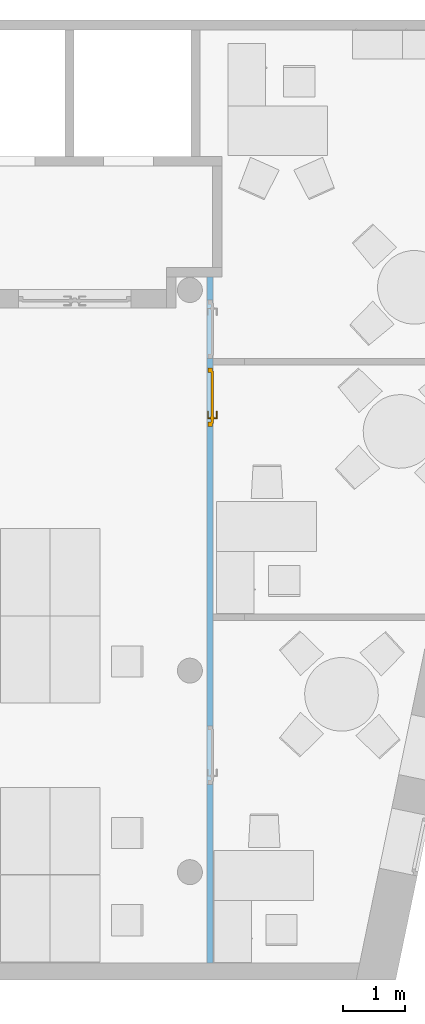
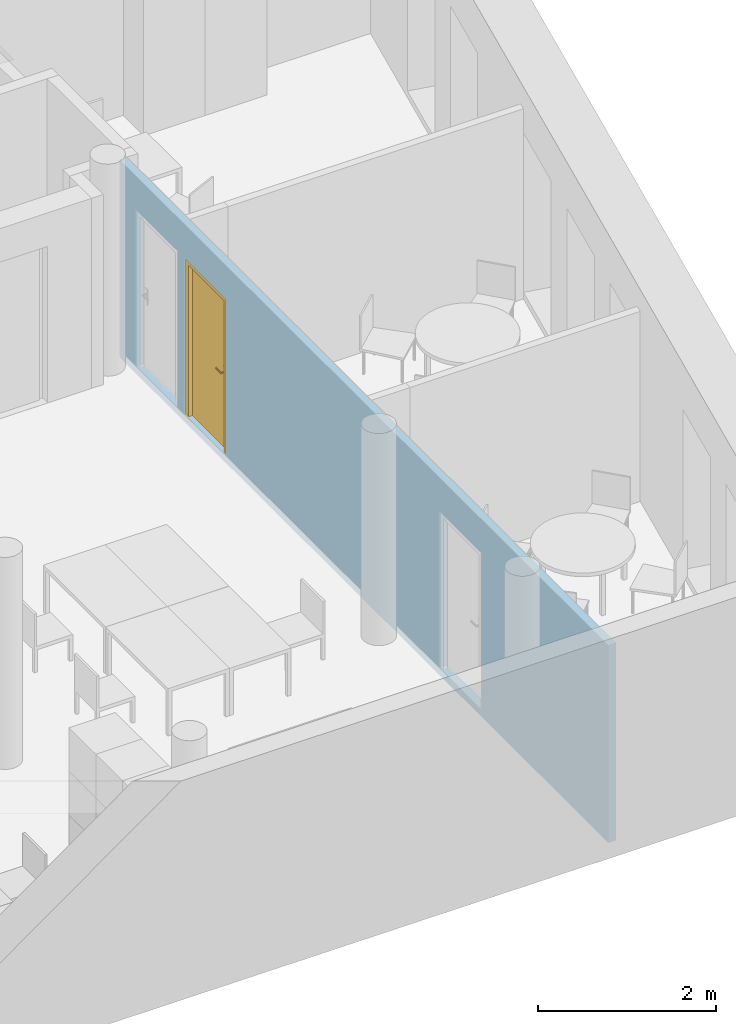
"""IFC4 building model written with IfcOpenShell, lengths in metres."""

from ifc_helpers import new_model, entity, si_unit, converted_unit, derived_unit, frame, frame_2d, origin, origin_with_axes, place, context, subcontext, project, spatial, polyline, rectangle, outline, extrude, faceted_brep, source, transform, mapped, material, layer, layer_set, layer_usage, element, fill, save


model = new_model("IFC4")

# Units and contexts
model_context = context("Model", 3, precision=1e-05, world=origin())
body_context = subcontext(model_context, "Body", "Model", "MODEL_VIEW")
ifc_project = project(units=[si_unit("LENGTHUNIT", "METRE"), si_unit("AREAUNIT", "SQUARE_METRE"), si_unit("VOLUMEUNIT", "CUBIC_METRE"), si_unit("MASSUNIT", "GRAM", prefix="KILO"), converted_unit("PLANEANGLEUNIT", "DEGREE", entity("IfcPlaneAngleMeasure", 0.0174532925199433), si_unit("PLANEANGLEUNIT", "RADIAN"), dimensions=[0, 0, 0, 0, 0, 0, 0]), derived_unit("THERMALTRANSMITTANCEUNIT", [(si_unit("POWERUNIT", "WATT"), 1), (si_unit("THERMODYNAMICTEMPERATUREUNIT", "KELVIN"), -1), (si_unit("LENGTHUNIT", "METRE"), -2)]), derived_unit("VOLUMETRICFLOWRATEUNIT", [(si_unit("LENGTHUNIT", "METRE"), 3), (converted_unit("TIMEUNIT", "hour", entity("IfcTimeMeasure", 3600.0), si_unit("TIMEUNIT", "SECOND"), dimensions=[0, 0, 1, 0, 0, 0, 0]), -1), (si_unit("LENGTHUNIT", "METRE"), -1)])], contexts=[model_context])

# Building, storeys
building_placement = place(None, origin())
building = spatial("IfcBuilding", under=ifc_project, at=building_placement, Name="HABITATGE PLURIFAMILIAR", CompositionType="ELEMENT")
storey_1_placement = place(building_placement, frame((0.0, 0.0, 12.27)))
storey_1 = spatial("IfcBuildingStorey", under=building, at=storey_1_placement, Name="PLANTA TERCERA", CompositionType="ELEMENT", Elevation=12.27)
storey_2_placement = place(storey_1_placement, frame((0.0, 0.0, 9.26)))
storey_2 = spatial("IfcBuildingStorey", under=storey_1, at=storey_2_placement, Name="NOU", CompositionType="PARTIAL")

# Wall, openings, door
ifc_material = material()
ifc_layer = layer(ifc_material, 0.1)
ifc_layer_set = layer_set([ifc_layer])
ifc_layer_usage = layer_usage(ifc_layer_set, "AXIS2", "POSITIVE", 0.0)
wall_placement = place(storey_2_placement, frame((421.265852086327, 24.1094598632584, -9.36), z_axis=(0.0, 0.0, 1.0), x_axis=(0.0, -1.0, 0.0)))
wall = element("IfcWall", 1, at=wall_placement, inside=storey_2, material=ifc_layer_usage, Name="Mampara P3", context=body_context, shape_type="SweptSolid", body=[
    extrude(rectangle(XDim=10.9988477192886, YDim=0.1, at=frame_2d((5.49942385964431, 0.05), x_axis=(1.0, 0.0))), origin_with_axes(), (0.0, 0.0, 1.0), 2.71),
])
opening_1_placement = place(wall_placement, frame((7.19486664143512, 0.0, 0.1), z_axis=(0.0, 1.0, 0.0), x_axis=(0.0, 0.0, 1.0)))
element("IfcOpeningElement", 2, at=opening_1_placement, cuts=wall, Name="Vano porta P3", ObjectType="Opening", context=body_context, shape_type="SweptSolid", body=[
    extrude(outline(polyline([(2.15, 0.939999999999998), (2.15, 0.0), (0.0, 0.0), (0.0, 0.939999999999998), (2.15, 0.939999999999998)])), origin_with_axes(), (0.0, 0.0, 1.0), 0.1),
])
opening_2_placement = place(wall_placement, frame((0.36871722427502, 0.0, 0.1), z_axis=(0.0, 1.0, 0.0), x_axis=(0.0, 0.0, 1.0)))
element("IfcOpeningElement", 3, at=opening_2_placement, cuts=wall, Name="Vano porta P3", ObjectType="Opening", context=body_context, shape_type="SweptSolid", body=[
    extrude(outline(polyline([(2.15, 0.94), (2.15, 0.0), (0.0, 0.0), (0.0, 0.94), (2.15, 0.94)])), origin_with_axes(), (0.0, 0.0, 1.0), 0.1),
])
opening_3_placement = place(wall_placement, frame((1.45871722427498, 0.0, 0.1), z_axis=(0.0, 1.0, 0.0), x_axis=(0.0, 0.0, 1.0)))
opening_3 = element("IfcOpeningElement", 4, at=opening_3_placement, cuts=wall, Name="Vano porta P3", ObjectType="Opening", context=body_context, shape_type="SweptSolid", body=[
    extrude(outline(polyline([(2.15, 0.94), (2.15, 0.0), (0.0, 0.0), (0.0, 0.94), (2.15, 0.94)])), origin_with_axes(), (0.0, 0.0, 1.0), 0.1),
])
shared_shape = source(origin_with_axes(), body_context, "Body", "Brep", [
    faceted_brep([(0.940000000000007, 0.0699999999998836, 2.15), (0.870000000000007, 0.0699999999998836, 2.15), (0.870000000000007, 0.0699999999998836, 0.0), (0.940000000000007, 0.0699999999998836, 0.0), (0.940000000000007, 0.0, 0.0), (0.870000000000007, 0.0, 0.0), (0.870000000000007, 0.0, 2.15), (0.940000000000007, 0.0, 2.15)], [[[0, 1, 2, 3]], [[4, 5, 6, 7]], [[3, 4, 7, 0]], [[2, 5, 4, 3]], [[1, 6, 5, 2]], [[0, 7, 6, 1]]], orient=[[False], [False], [False], [False], [False], [False]]),
    faceted_brep([(0.0700000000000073, 0.0699999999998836, 2.15), (0.0, 0.0699999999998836, 2.15), (0.0, 0.0699999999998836, 0.0), (0.0700000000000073, 0.0699999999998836, 0.0), (0.0700000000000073, 0.0, 0.0), (0.0, 0.0, 0.0), (0.0, 0.0, 2.15), (0.0700000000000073, 0.0, 2.15)], [[[0, 1, 2, 3]], [[4, 5, 6, 7]], [[3, 4, 7, 0]], [[2, 5, 4, 3]], [[1, 6, 5, 2]], [[0, 7, 6, 1]]], orient=[[False], [False], [False], [False], [False], [False]]),
    faceted_brep([(0.870000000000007, 0.0699999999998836, 2.15), (0.0700000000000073, 0.0699999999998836, 2.15), (0.0700000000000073, 0.0699999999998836, 2.08), (0.870000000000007, 0.0699999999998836, 2.08), (0.870000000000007, 0.0, 2.08), (0.0700000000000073, 0.0, 2.08), (0.0700000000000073, 0.0, 2.15), (0.870000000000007, 0.0, 2.15)], [[[0, 1, 2, 3]], [[4, 5, 6, 7]], [[3, 4, 7, 0]], [[2, 5, 4, 3]], [[1, 6, 5, 2]], [[0, 7, 6, 1]]], orient=[[False], [False], [False], [False], [False], [False]]),
    faceted_brep([(0.890000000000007, 0.0899999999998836, 2.1), (0.0500000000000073, 0.0899999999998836, 2.1), (0.0500000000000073, 0.0899999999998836, 0.0), (0.890000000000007, 0.0899999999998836, 0.0), (0.890000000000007, 0.0499999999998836, 0.0), (0.0500000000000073, 0.0499999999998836, 0.0), (0.0500000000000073, 0.0499999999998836, 2.1), (0.890000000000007, 0.0499999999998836, 2.1)], [[[0, 1, 2, 3]], [[4, 5, 6, 7]], [[3, 4, 7, 0]], [[2, 5, 4, 3]], [[1, 6, 5, 2]], [[0, 7, 6, 1]]], orient=[[False], [False], [False], [False], [False], [False]]),
    faceted_brep([(0.830000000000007, 0.0499999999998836, 1.125), (0.780000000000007, 0.0499999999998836, 1.125), (0.780000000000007, 0.0499999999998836, 0.91), (0.830000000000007, 0.0499999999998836, 0.91), (0.830000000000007, 0.0399999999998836, 0.91), (0.780000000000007, 0.0399999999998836, 0.91), (0.780000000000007, 0.0399999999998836, 1.125), (0.830000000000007, 0.0399999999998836, 1.125)], [[[0, 1, 2, 3]], [[4, 5, 6, 7]], [[3, 4, 7, 0]], [[2, 5, 4, 3]], [[1, 6, 5, 2]], [[0, 7, 6, 1]]], orient=[[False], [False], [False], [False], [False], [False]]),
    faceted_brep([(0.805000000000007, 0.0399999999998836, 1.06), (0.800000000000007, 0.0399999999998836, 1.05866025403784), (0.796339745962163, 0.0399999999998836, 1.055), (0.795000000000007, 0.0399999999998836, 1.05), (0.796339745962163, 0.0399999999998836, 1.045), (0.800000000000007, 0.0399999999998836, 1.04133974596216), (0.805000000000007, 0.0399999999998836, 1.04), (0.810000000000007, 0.0399999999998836, 1.04133974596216), (0.813660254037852, 0.0399999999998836, 1.045), (0.815000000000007, 0.0399999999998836, 1.05), (0.813660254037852, 0.0399999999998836, 1.055), (0.810000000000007, 0.0399999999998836, 1.05866025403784), (0.810000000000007, -0.00500000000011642, 1.05866025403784), (0.805000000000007, 0.0, 1.06), (0.813660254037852, -0.00866025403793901, 1.055), (0.815000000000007, -0.0100000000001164, 1.05), (0.813660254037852, -0.00866025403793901, 1.045), (0.810000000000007, -0.00500000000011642, 1.04133974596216), (0.805000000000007, 0.0, 1.04), (0.800000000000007, 0.00499999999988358, 1.04133974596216), (0.796339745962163, 0.00866025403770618, 1.045), (0.795000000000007, 0.00999999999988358, 1.05), (0.796339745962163, 0.00866025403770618, 1.055), (0.800000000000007, 0.00499999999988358, 1.05866025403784), (0.690000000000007, 0.0, 1.06), (0.690000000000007, -0.00500000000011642, 1.05866025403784), (0.690000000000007, -0.00866025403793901, 1.055), (0.690000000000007, -0.0100000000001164, 1.05), (0.690000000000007, -0.00866025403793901, 1.045), (0.690000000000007, -0.00500000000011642, 1.04133974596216), (0.690000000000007, 0.0, 1.04), (0.690000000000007, 0.00499999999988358, 1.04133974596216), (0.690000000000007, 0.00866025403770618, 1.045), (0.690000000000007, 0.00999999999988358, 1.05), (0.690000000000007, 0.00866025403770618, 1.055), (0.690000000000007, 0.00499999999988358, 1.05866025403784)], [[[0, 1, 2, 3, 4, 5, 6, 7, 8, 9, 10, 11]], [[0, 11, 12, 13]], [[11, 10, 14, 12]], [[10, 9, 15, 14]], [[9, 8, 16, 15]], [[8, 7, 17, 16]], [[7, 6, 18, 17]], [[6, 5, 19, 18]], [[5, 4, 20, 19]], [[4, 3, 21, 20]], [[3, 2, 22, 21]], [[2, 1, 23, 22]], [[1, 0, 13, 23]], [[24, 25, 26, 27, 28, 29, 30, 31, 32, 33, 34, 35]], [[13, 12, 25, 24]], [[12, 14, 26, 25]], [[14, 15, 27, 26]], [[15, 16, 28, 27]], [[16, 17, 29, 28]], [[17, 18, 30, 29]], [[18, 19, 31, 30]], [[19, 20, 32, 31]], [[20, 21, 33, 32]], [[21, 22, 34, 33]], [[22, 23, 35, 34]], [[23, 13, 24, 35]]], orient=[[False], [False], [False], [False], [False], [False], [False], [False], [False], [False], [False], [False], [False], [False], [False], [False], [False], [False], [False], [False], [False], [False], [False], [False], [False], [False]]),
    faceted_brep([(0.830000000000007, 0.0899999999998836, 1.125), (0.830000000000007, 0.0899999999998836, 0.91), (0.780000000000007, 0.0899999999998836, 0.91), (0.780000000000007, 0.0899999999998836, 1.125), (0.830000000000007, 0.0999999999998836, 0.91), (0.830000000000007, 0.0999999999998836, 1.125), (0.780000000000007, 0.0999999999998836, 1.125), (0.780000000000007, 0.0999999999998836, 0.91)], [[[0, 1, 2, 3]], [[4, 5, 6, 7]], [[1, 0, 5, 4]], [[2, 1, 4, 7]], [[3, 2, 7, 6]], [[0, 3, 6, 5]]], orient=[[False], [False], [False], [False], [False], [False]]),
    faceted_brep([(0.805000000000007, 0.0999999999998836, 1.06), (0.810000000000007, 0.0999999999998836, 1.05866025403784), (0.813660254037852, 0.0999999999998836, 1.055), (0.815000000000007, 0.0999999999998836, 1.05), (0.813660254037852, 0.0999999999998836, 1.045), (0.810000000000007, 0.0999999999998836, 1.04133974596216), (0.805000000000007, 0.0999999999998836, 1.04), (0.800000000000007, 0.0999999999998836, 1.04133974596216), (0.796339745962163, 0.0999999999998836, 1.045), (0.795000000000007, 0.0999999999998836, 1.05), (0.796339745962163, 0.0999999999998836, 1.055), (0.800000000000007, 0.0999999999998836, 1.05866025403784), (0.805000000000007, 0.139999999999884, 1.06), (0.810000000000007, 0.144999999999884, 1.05866025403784), (0.813660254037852, 0.148660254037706, 1.055), (0.815000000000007, 0.149999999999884, 1.05), (0.813660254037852, 0.148660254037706, 1.045), (0.810000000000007, 0.144999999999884, 1.04133974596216), (0.805000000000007, 0.139999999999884, 1.04), (0.800000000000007, 0.134999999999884, 1.04133974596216), (0.796339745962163, 0.131339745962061, 1.045), (0.795000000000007, 0.129999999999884, 1.05), (0.796339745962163, 0.131339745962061, 1.055), (0.800000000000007, 0.134999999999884, 1.05866025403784), (0.690000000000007, 0.139999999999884, 1.06), (0.690000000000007, 0.134999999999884, 1.05866025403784), (0.690000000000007, 0.131339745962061, 1.055), (0.690000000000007, 0.129999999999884, 1.05), (0.690000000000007, 0.131339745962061, 1.045), (0.690000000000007, 0.134999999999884, 1.04133974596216), (0.690000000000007, 0.139999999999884, 1.04), (0.690000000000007, 0.144999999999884, 1.04133974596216), (0.690000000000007, 0.148660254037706, 1.045), (0.690000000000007, 0.149999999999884, 1.05), (0.690000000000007, 0.148660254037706, 1.055), (0.690000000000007, 0.144999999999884, 1.05866025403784)], [[[0, 1, 2, 3, 4, 5, 6, 7, 8, 9, 10, 11]], [[0, 12, 13, 1]], [[1, 13, 14, 2]], [[2, 14, 15, 3]], [[3, 15, 16, 4]], [[4, 16, 17, 5]], [[5, 17, 18, 6]], [[6, 18, 19, 7]], [[7, 19, 20, 8]], [[8, 20, 21, 9]], [[9, 21, 22, 10]], [[10, 22, 23, 11]], [[11, 23, 12, 0]], [[24, 25, 26, 27, 28, 29, 30, 31, 32, 33, 34, 35]], [[12, 24, 35, 13]], [[13, 35, 34, 14]], [[14, 34, 33, 15]], [[15, 33, 32, 16]], [[16, 32, 31, 17]], [[17, 31, 30, 18]], [[18, 30, 29, 19]], [[19, 29, 28, 20]], [[20, 28, 27, 21]], [[21, 27, 26, 22]], [[22, 26, 25, 23]], [[23, 25, 24, 12]]], orient=[[False], [False], [False], [False], [False], [False], [False], [False], [False], [False], [False], [False], [False], [False], [False], [False], [False], [False], [False], [False], [False], [False], [False], [False], [False], [False]]),
])
door_placement = place(opening_3_placement, frame((0.0, 0.0, 0.015), z_axis=(1.0, 0.0, 0.0), x_axis=(0.0, 1.0, 0.0)))
door = element("IfcDoor", 5, at=door_placement, inside=storey_2, Name="Porta P3", OperationType="USERDEFINED", OverallHeight=2.15, OverallWidth=0.94, PredefinedType="DOOR", context=body_context, shape_type="MappedRepresentation", body=[
    mapped(shared_shape, transform((0.0, 0.0, 0.0), x_axis=(1.0, 0.0, 0.0), y_axis=(0.0, 1.0, 0.0), z_axis=(0.0, 0.0, 1.0), scale=1.0)),
])
fill(opening_3, door)

save(model, "model.ifc")
